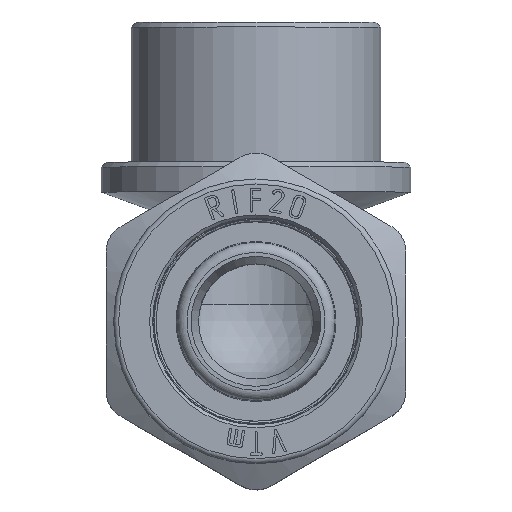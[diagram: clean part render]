
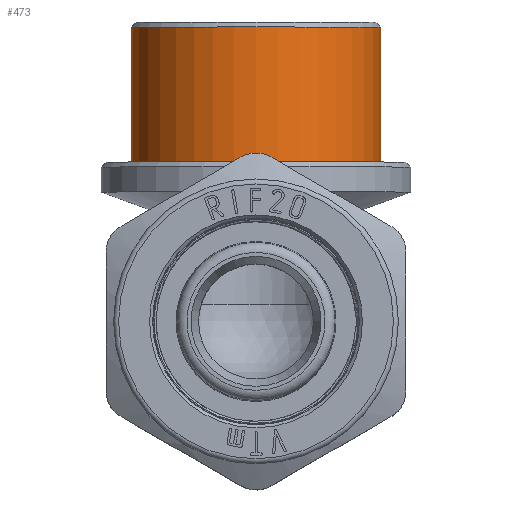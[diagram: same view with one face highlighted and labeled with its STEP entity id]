
A CAD part, top view. The second image highlights one B-rep face of the part: STEP entity #473.
In plain terms, the highlighted cylindrical face has radius 12.5 mm (diameter 25 mm), a full revolution.
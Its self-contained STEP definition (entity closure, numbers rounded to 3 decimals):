
#473=ADVANCED_FACE('',(#3414,#3416),#3418,.T.);
#3414=FACE_OUTER_BOUND('',#3415,.T.);
#3415=EDGE_LOOP('',(#6471));
#3416=FACE_OUTER_BOUND('',#3417,.T.);
#3417=EDGE_LOOP('',(#6472));
#3418=CYLINDRICAL_SURFACE('',#3419,12.5);
#3419=AXIS2_PLACEMENT_3D('',#3420,#3421,#3422);
#3420=CARTESIAN_POINT('',(0.,16.,0.));
#3421=DIRECTION('',(0.,1.,0.));
#3422=DIRECTION('',(-1.,0.,0.));
#6471=ORIENTED_EDGE('',*,*,#7836,.F.);
#6472=ORIENTED_EDGE('',*,*,#7558,.F.);
#7558=EDGE_CURVE('',#9410,#9410,#9411,.F.);
#7836=EDGE_CURVE('',#9828,#9828,#9829,.T.);
#9410=VERTEX_POINT('',#15240);
#9411=CIRCLE('',#15241,12.5);
#9828=VERTEX_POINT('',#16216);
#9829=CIRCLE('',#16217,12.5);
#15240=CARTESIAN_POINT('',(-12.5,16.,0.));
#15241=AXIS2_PLACEMENT_3D('',#15242,#15243,#15244);
#15242=CARTESIAN_POINT('',(0.,16.,0.));
#15243=DIRECTION('',(0.,1.,0.));
#15244=DIRECTION('',(-1.,0.,0.));
#16216=CARTESIAN_POINT('',(-12.5,29.5,0.));
#16217=AXIS2_PLACEMENT_3D('',#16218,#16219,#16220);
#16218=CARTESIAN_POINT('',(0.,29.5,0.));
#16219=DIRECTION('',(0.,1.,0.));
#16220=DIRECTION('',(-1.,0.,0.));
